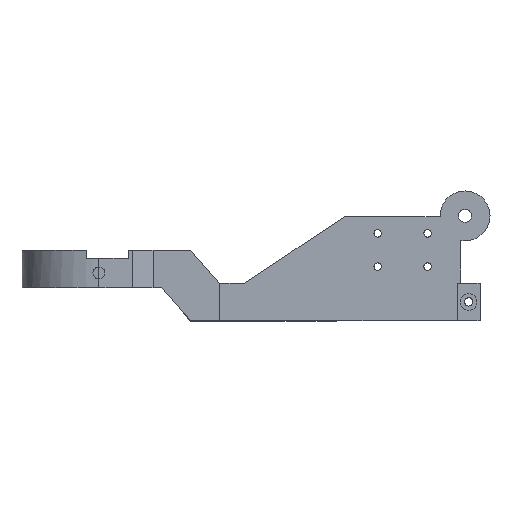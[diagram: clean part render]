
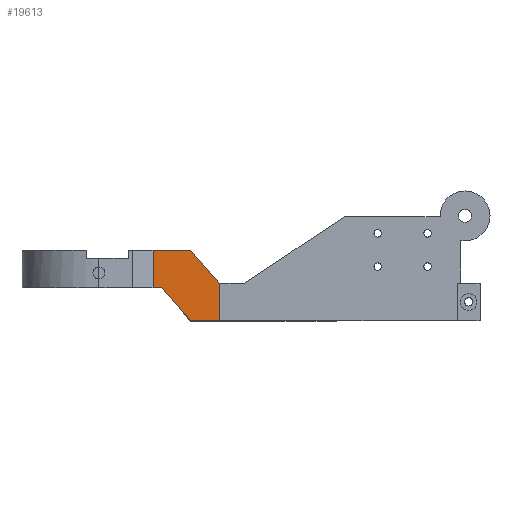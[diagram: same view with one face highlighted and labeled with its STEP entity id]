
A CAD part, top view. The second image highlights one B-rep face of the part: STEP entity #19613.
In plain terms, the highlighted planar face has unit normal (0, 0, 1).
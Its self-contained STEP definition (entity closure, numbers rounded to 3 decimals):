
#3668 = PLANE('',#3669);
#3669 = AXIS2_PLACEMENT_3D('',#3670,#3671,#3672);
#3670 = CARTESIAN_POINT('',(20.025,8.,15.29));
#3671 = DIRECTION('',(0.,1.,0.));
#3672 = DIRECTION('',(0.,-0.,1.));
#5650 = PLANE('',#5651);
#5651 = AXIS2_PLACEMENT_3D('',#5652,#5653,#5654);
#5652 = CARTESIAN_POINT('',(0.,0.,7.));
#5653 = DIRECTION('',(0.,1.,0.));
#5654 = DIRECTION('',(0.,-0.,1.));
#6008 = PLANE('',#6009);
#6009 = AXIS2_PLACEMENT_3D('',#6010,#6011,#6012);
#6010 = CARTESIAN_POINT('',(27.025,9.,29.029));
#6011 = DIRECTION('',(1.,0.,-0.));
#6012 = DIRECTION('',(-0.,0.,-1.));
#11676 = PLANE('',#11677);
#11677 = AXIS2_PLACEMENT_3D('',#11678,#11679,#11680);
#11678 = CARTESIAN_POINT('',(6.,-40.593,18.5));
#11679 = DIRECTION('',(0.191,-0.,0.982));
#11680 = DIRECTION('',(0.982,0.,-0.191));
#11704 = PLANE('',#11705);
#11705 = AXIS2_PLACEMENT_3D('',#11706,#11707,#11708);
#11706 = CARTESIAN_POINT('',(20.025,17.,15.29));
#11707 = DIRECTION('',(0.,-1.,0.));
#11708 = DIRECTION('',(0.,-0.,-1.));
#16186 = VERTEX_POINT('',#16187);
#16187 = CARTESIAN_POINT('',(13.025,8.,17.529));
#16201 = PLANE('',#16202);
#16202 = AXIS2_PLACEMENT_3D('',#16203,#16204,#16205);
#16203 = CARTESIAN_POINT('',(20.025,0.,4.66));
#16204 = DIRECTION('',(-0.753,-0.659,0.));
#16205 = DIRECTION('',(0.659,-0.753,0.));
#16213 = EDGE_CURVE('',#16186,#16214,#16216,.T.);
#16214 = VERTEX_POINT('',#16215);
#16215 = CARTESIAN_POINT('',(11.,8.,17.529));
#16216 = SURFACE_CURVE('',#16217,(#16221,#16228),.PCURVE_S1.);
#16217 = LINE('',#16218,#16219);
#16218 = CARTESIAN_POINT('',(20.025,8.,17.529));
#16219 = VECTOR('',#16220,1.);
#16220 = DIRECTION('',(-1.,-0.,-0.));
#16221 = PCURVE('',#3668,#16222);
#16222 = DEFINITIONAL_REPRESENTATION('',(#16223),#16227);
#16223 = LINE('',#16224,#16225);
#16224 = CARTESIAN_POINT('',(2.239,0.));
#16225 = VECTOR('',#16226,1.);
#16226 = DIRECTION('',(0.,-1.));
#16227 = ( GEOMETRIC_REPRESENTATION_CONTEXT(2) 
PARAMETRIC_REPRESENTATION_CONTEXT() REPRESENTATION_CONTEXT('2D SPACE',''
  ) );
#16228 = PCURVE('',#16229,#16234);
#16229 = PLANE('',#16230);
#16230 = AXIS2_PLACEMENT_3D('',#16231,#16232,#16233);
#16231 = CARTESIAN_POINT('',(51.025,9.,17.529));
#16232 = DIRECTION('',(0.,0.,-1.));
#16233 = DIRECTION('',(-1.,0.,0.));
#16234 = DEFINITIONAL_REPRESENTATION('',(#16235),#16239);
#16235 = LINE('',#16236,#16237);
#16236 = CARTESIAN_POINT('',(31.,-1.));
#16237 = VECTOR('',#16238,1.);
#16238 = DIRECTION('',(1.,0.));
#16239 = ( GEOMETRIC_REPRESENTATION_CONTEXT(2) 
PARAMETRIC_REPRESENTATION_CONTEXT() REPRESENTATION_CONTEXT('2D SPACE',''
  ) );
#16316 = EDGE_CURVE('',#16214,#16317,#16319,.T.);
#16317 = VERTEX_POINT('',#16318);
#16318 = CARTESIAN_POINT('',(11.,17.,17.529));
#16319 = SURFACE_CURVE('',#16320,(#16324,#16331),.PCURVE_S1.);
#16320 = LINE('',#16321,#16322);
#16321 = CARTESIAN_POINT('',(11.,-40.593,17.529));
#16322 = VECTOR('',#16323,1.);
#16323 = DIRECTION('',(0.,1.,0.));
#16324 = PCURVE('',#11676,#16325);
#16325 = DEFINITIONAL_REPRESENTATION('',(#16326),#16330);
#16326 = LINE('',#16327,#16328);
#16327 = CARTESIAN_POINT('',(5.093,0.));
#16328 = VECTOR('',#16329,1.);
#16329 = DIRECTION('',(0.,1.));
#16330 = ( GEOMETRIC_REPRESENTATION_CONTEXT(2) 
PARAMETRIC_REPRESENTATION_CONTEXT() REPRESENTATION_CONTEXT('2D SPACE',''
  ) );
#16331 = PCURVE('',#16229,#16332);
#16332 = DEFINITIONAL_REPRESENTATION('',(#16333),#16337);
#16333 = LINE('',#16334,#16335);
#16334 = CARTESIAN_POINT('',(40.025,-49.593));
#16335 = VECTOR('',#16336,1.);
#16336 = DIRECTION('',(0.,1.));
#16337 = ( GEOMETRIC_REPRESENTATION_CONTEXT(2) 
PARAMETRIC_REPRESENTATION_CONTEXT() REPRESENTATION_CONTEXT('2D SPACE',''
  ) );
#16390 = EDGE_CURVE('',#16391,#16317,#16393,.T.);
#16391 = VERTEX_POINT('',#16392);
#16392 = CARTESIAN_POINT('',(20.025,17.,17.529));
#16393 = SURFACE_CURVE('',#16394,(#16398,#16405),.PCURVE_S1.);
#16394 = LINE('',#16395,#16396);
#16395 = CARTESIAN_POINT('',(20.025,17.,17.529));
#16396 = VECTOR('',#16397,1.);
#16397 = DIRECTION('',(-1.,-0.,-0.));
#16398 = PCURVE('',#11704,#16399);
#16399 = DEFINITIONAL_REPRESENTATION('',(#16400),#16404);
#16400 = LINE('',#16401,#16402);
#16401 = CARTESIAN_POINT('',(-2.239,0.));
#16402 = VECTOR('',#16403,1.);
#16403 = DIRECTION('',(0.,-1.));
#16404 = ( GEOMETRIC_REPRESENTATION_CONTEXT(2) 
PARAMETRIC_REPRESENTATION_CONTEXT() REPRESENTATION_CONTEXT('2D SPACE',''
  ) );
#16405 = PCURVE('',#16229,#16406);
#16406 = DEFINITIONAL_REPRESENTATION('',(#16407),#16411);
#16407 = LINE('',#16408,#16409);
#16408 = CARTESIAN_POINT('',(31.,8.));
#16409 = VECTOR('',#16410,1.);
#16410 = DIRECTION('',(1.,0.));
#16411 = ( GEOMETRIC_REPRESENTATION_CONTEXT(2) 
PARAMETRIC_REPRESENTATION_CONTEXT() REPRESENTATION_CONTEXT('2D SPACE',''
  ) );
#16427 = PLANE('',#16428);
#16428 = AXIS2_PLACEMENT_3D('',#16429,#16430,#16431);
#16429 = CARTESIAN_POINT('',(20.025,17.,4.66));
#16430 = DIRECTION('',(0.753,0.659,-0.));
#16431 = DIRECTION('',(-0.659,0.753,0.));
#19364 = VERTEX_POINT('',#19365);
#19365 = CARTESIAN_POINT('',(20.025,0.,17.529));
#19386 = EDGE_CURVE('',#16186,#19364,#19387,.T.);
#19387 = SURFACE_CURVE('',#19388,(#19392,#19399),.PCURVE_S1.);
#19388 = LINE('',#19389,#19390);
#19389 = CARTESIAN_POINT('',(20.025,0.,17.529));
#19390 = VECTOR('',#19391,1.);
#19391 = DIRECTION('',(0.659,-0.753,-0.));
#19392 = PCURVE('',#16201,#19393);
#19393 = DEFINITIONAL_REPRESENTATION('',(#19394),#19398);
#19394 = LINE('',#19395,#19396);
#19395 = CARTESIAN_POINT('',(0.,12.87));
#19396 = VECTOR('',#19397,1.);
#19397 = DIRECTION('',(1.,0.));
#19398 = ( GEOMETRIC_REPRESENTATION_CONTEXT(2) 
PARAMETRIC_REPRESENTATION_CONTEXT() REPRESENTATION_CONTEXT('2D SPACE',''
  ) );
#19399 = PCURVE('',#16229,#19400);
#19400 = DEFINITIONAL_REPRESENTATION('',(#19401),#19405);
#19401 = LINE('',#19402,#19403);
#19402 = CARTESIAN_POINT('',(31.,-9.));
#19403 = VECTOR('',#19404,1.);
#19404 = DIRECTION('',(-0.659,-0.753));
#19405 = ( GEOMETRIC_REPRESENTATION_CONTEXT(2) 
PARAMETRIC_REPRESENTATION_CONTEXT() REPRESENTATION_CONTEXT('2D SPACE',''
  ) );
#19506 = EDGE_CURVE('',#19507,#16391,#19509,.T.);
#19507 = VERTEX_POINT('',#19508);
#19508 = CARTESIAN_POINT('',(27.025,9.,17.529));
#19509 = SURFACE_CURVE('',#19510,(#19514,#19521),.PCURVE_S1.);
#19510 = LINE('',#19511,#19512);
#19511 = CARTESIAN_POINT('',(20.025,17.,17.529));
#19512 = VECTOR('',#19513,1.);
#19513 = DIRECTION('',(-0.659,0.753,-0.));
#19514 = PCURVE('',#16427,#19515);
#19515 = DEFINITIONAL_REPRESENTATION('',(#19516),#19520);
#19516 = LINE('',#19517,#19518);
#19517 = CARTESIAN_POINT('',(0.,12.87));
#19518 = VECTOR('',#19519,1.);
#19519 = DIRECTION('',(1.,0.));
#19520 = ( GEOMETRIC_REPRESENTATION_CONTEXT(2) 
PARAMETRIC_REPRESENTATION_CONTEXT() REPRESENTATION_CONTEXT('2D SPACE',''
  ) );
#19521 = PCURVE('',#16229,#19522);
#19522 = DEFINITIONAL_REPRESENTATION('',(#19523),#19527);
#19523 = LINE('',#19524,#19525);
#19524 = CARTESIAN_POINT('',(31.,8.));
#19525 = VECTOR('',#19526,1.);
#19526 = DIRECTION('',(0.659,0.753));
#19527 = ( GEOMETRIC_REPRESENTATION_CONTEXT(2) 
PARAMETRIC_REPRESENTATION_CONTEXT() REPRESENTATION_CONTEXT('2D SPACE',''
  ) );
#19613 = ADVANCED_FACE('',(#19614),#16229,.F.);
#19614 = FACE_BOUND('',#19615,.T.);
#19615 = EDGE_LOOP('',(#19616,#19617,#19618,#19619,#19620,#19643,#19664)
  );
#19616 = ORIENTED_EDGE('',*,*,#16390,.T.);
#19617 = ORIENTED_EDGE('',*,*,#16316,.F.);
#19618 = ORIENTED_EDGE('',*,*,#16213,.F.);
#19619 = ORIENTED_EDGE('',*,*,#19386,.T.);
#19620 = ORIENTED_EDGE('',*,*,#19621,.T.);
#19621 = EDGE_CURVE('',#19364,#19622,#19624,.T.);
#19622 = VERTEX_POINT('',#19623);
#19623 = CARTESIAN_POINT('',(27.025,0.,17.529));
#19624 = SURFACE_CURVE('',#19625,(#19629,#19636),.PCURVE_S1.);
#19625 = LINE('',#19626,#19627);
#19626 = CARTESIAN_POINT('',(51.025,0.,17.529));
#19627 = VECTOR('',#19628,1.);
#19628 = DIRECTION('',(1.,-0.,0.));
#19629 = PCURVE('',#16229,#19630);
#19630 = DEFINITIONAL_REPRESENTATION('',(#19631),#19635);
#19631 = LINE('',#19632,#19633);
#19632 = CARTESIAN_POINT('',(-0.,-9.));
#19633 = VECTOR('',#19634,1.);
#19634 = DIRECTION('',(-1.,0.));
#19635 = ( GEOMETRIC_REPRESENTATION_CONTEXT(2) 
PARAMETRIC_REPRESENTATION_CONTEXT() REPRESENTATION_CONTEXT('2D SPACE',''
  ) );
#19636 = PCURVE('',#5650,#19637);
#19637 = DEFINITIONAL_REPRESENTATION('',(#19638),#19642);
#19638 = LINE('',#19639,#19640);
#19639 = CARTESIAN_POINT('',(10.529,51.025));
#19640 = VECTOR('',#19641,1.);
#19641 = DIRECTION('',(0.,1.));
#19642 = ( GEOMETRIC_REPRESENTATION_CONTEXT(2) 
PARAMETRIC_REPRESENTATION_CONTEXT() REPRESENTATION_CONTEXT('2D SPACE',''
  ) );
#19643 = ORIENTED_EDGE('',*,*,#19644,.F.);
#19644 = EDGE_CURVE('',#19507,#19622,#19645,.T.);
#19645 = SURFACE_CURVE('',#19646,(#19650,#19657),.PCURVE_S1.);
#19646 = LINE('',#19647,#19648);
#19647 = CARTESIAN_POINT('',(27.025,9.,17.529));
#19648 = VECTOR('',#19649,1.);
#19649 = DIRECTION('',(0.,-1.,0.));
#19650 = PCURVE('',#16229,#19651);
#19651 = DEFINITIONAL_REPRESENTATION('',(#19652),#19656);
#19652 = LINE('',#19653,#19654);
#19653 = CARTESIAN_POINT('',(24.,0.));
#19654 = VECTOR('',#19655,1.);
#19655 = DIRECTION('',(-0.,-1.));
#19656 = ( GEOMETRIC_REPRESENTATION_CONTEXT(2) 
PARAMETRIC_REPRESENTATION_CONTEXT() REPRESENTATION_CONTEXT('2D SPACE',''
  ) );
#19657 = PCURVE('',#6008,#19658);
#19658 = DEFINITIONAL_REPRESENTATION('',(#19659),#19663);
#19659 = LINE('',#19660,#19661);
#19660 = CARTESIAN_POINT('',(11.5,0.));
#19661 = VECTOR('',#19662,1.);
#19662 = DIRECTION('',(-0.,-1.));
#19663 = ( GEOMETRIC_REPRESENTATION_CONTEXT(2) 
PARAMETRIC_REPRESENTATION_CONTEXT() REPRESENTATION_CONTEXT('2D SPACE',''
  ) );
#19664 = ORIENTED_EDGE('',*,*,#19506,.T.);
